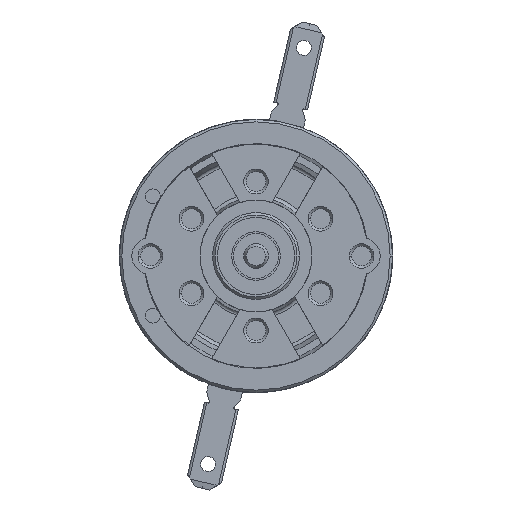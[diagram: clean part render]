
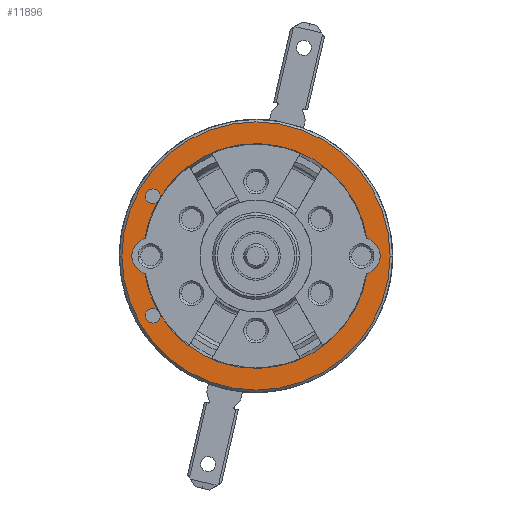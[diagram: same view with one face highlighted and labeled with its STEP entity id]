
A CAD part, left-side view. The second image highlights one B-rep face of the part: STEP entity #11896.
In plain terms, the highlighted planar face has unit normal (-1, 0, 0).
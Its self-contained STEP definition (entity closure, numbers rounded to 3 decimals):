
#3508=CARTESIAN_POINT('',(-29.2,0.,0.));
#3509=DIRECTION('',(-1.,0.,0.));
#3510=DIRECTION('',(0.,1.,0.));
#3511=AXIS2_PLACEMENT_3D('',#3508,#3509,#3510);
#3516=CARTESIAN_POINT('',(-29.2,0.,0.));
#3517=DIRECTION('',(-1.,0.,0.));
#3518=DIRECTION('',(0.,-1.,0.));
#3519=AXIS2_PLACEMENT_3D('',#3516,#3517,#3518);
#3524=CARTESIAN_POINT('',(-29.2,8.31,-4.8));
#3525=DIRECTION('',(-1.,0.,0.));
#3526=DIRECTION('',(0.,1.,0.));
#3527=AXIS2_PLACEMENT_3D('',#3524,#3525,#3526);
#3532=CARTESIAN_POINT('',(-29.2,8.31,-4.8));
#3533=DIRECTION('',(-1.,0.,0.));
#3534=DIRECTION('',(0.,-1.,0.));
#3535=AXIS2_PLACEMENT_3D('',#3532,#3533,#3534);
#3540=CARTESIAN_POINT('',(-29.2,0.,0.));
#3541=DIRECTION('',(1.,0.,0.));
#3542=DIRECTION('',(0.,-0.987,-0.159));
#3543=AXIS2_PLACEMENT_3D('',#3540,#3541,#3542);
#3548=CARTESIAN_POINT('',(-29.2,-8.5,0.));
#3549=DIRECTION('',(-1.,0.,0.));
#3550=DIRECTION('',(0.,-0.29,-0.957));
#3551=AXIS2_PLACEMENT_3D('',#3548,#3549,#3550);
#3556=CARTESIAN_POINT('',(-29.2,0.,0.));
#3557=DIRECTION('',(1.,0.,0.));
#3558=DIRECTION('',(0.,0.852,0.523));
#3559=AXIS2_PLACEMENT_3D('',#3556,#3557,#3558);
#3564=CARTESIAN_POINT('',(-29.2,8.31,4.8));
#3565=DIRECTION('',(1.,0.,0.));
#3566=DIRECTION('',(0.,-1.,0.));
#3567=AXIS2_PLACEMENT_3D('',#3564,#3565,#3566);
#3572=CARTESIAN_POINT('',(-29.2,8.31,4.8));
#3573=DIRECTION('',(1.,0.,0.));
#3574=DIRECTION('',(0.,1.,0.));
#3575=AXIS2_PLACEMENT_3D('',#3572,#3573,#3574);
#3580=CARTESIAN_POINT('',(-29.2,8.31,4.8));
#3581=DIRECTION('',(1.,0.,0.));
#3582=DIRECTION('',(0.,-0.593,-0.805));
#3583=AXIS2_PLACEMENT_3D('',#3580,#3581,#3582);
#3588=CARTESIAN_POINT('',(-29.2,0.,0.));
#3589=DIRECTION('',(1.,0.,0.));
#3590=DIRECTION('',(0.,0.987,0.159));
#3591=AXIS2_PLACEMENT_3D('',#3588,#3589,#3590);
#3596=CARTESIAN_POINT('',(-29.2,8.5,0.));
#3597=DIRECTION('',(-1.,0.,0.));
#3598=DIRECTION('',(0.,0.29,0.957));
#3599=AXIS2_PLACEMENT_3D('',#3596,#3597,#3598);
#3604=CARTESIAN_POINT('',(-29.2,0.,0.));
#3605=DIRECTION('',(1.,0.,0.));
#3606=DIRECTION('',(0.,0.879,-0.477));
#3607=AXIS2_PLACEMENT_3D('',#3604,#3605,#3606);
#3612=CARTESIAN_POINT('',(-29.2,8.31,-4.8));
#3613=DIRECTION('',(-1.,0.,0.));
#3614=DIRECTION('',(0.,-0.593,0.805));
#3615=AXIS2_PLACEMENT_3D('',#3612,#3613,#3614);
#8353=CARTESIAN_POINT('',(-29.2,8.91,4.8));
#8354=CARTESIAN_POINT('',(-29.2,7.71,4.8));
#8355=VERTEX_POINT('',#8353);
#8356=VERTEX_POINT('',#8354);
#8357=CARTESIAN_POINT('',(-29.2,7.714,4.733));
#8358=VERTEX_POINT('',#8357);
#8363=CARTESIAN_POINT('',(-29.2,8.91,-4.8));
#8364=VERTEX_POINT('',#8363);
#8365=CARTESIAN_POINT('',(-29.2,7.71,-4.8));
#8366=VERTEX_POINT('',#8365);
#8367=CARTESIAN_POINT('',(-29.2,7.714,-4.733));
#8368=VERTEX_POINT('',#8367);
#8409=CARTESIAN_POINT('',(-29.2,7.954,4.317));
#8410=VERTEX_POINT('',#8409);
#8411=CARTESIAN_POINT('',(-29.2,7.954,-4.317));
#8412=VERTEX_POINT('',#8411);
#8413=CARTESIAN_POINT('',(-29.2,-8.935,-1.435));
#8414=CARTESIAN_POINT('',(-29.2,-8.935,1.435));
#8415=VERTEX_POINT('',#8413);
#8416=VERTEX_POINT('',#8414);
#8417=CARTESIAN_POINT('',(-29.2,8.935,1.435));
#8418=CARTESIAN_POINT('',(-29.2,8.935,-1.435));
#8419=VERTEX_POINT('',#8417);
#8420=VERTEX_POINT('',#8418);
#8459=CARTESIAN_POINT('',(-29.2,10.8,0.));
#8460=CARTESIAN_POINT('',(-29.2,-10.8,0.));
#8461=VERTEX_POINT('',#8459);
#8462=VERTEX_POINT('',#8460);
#11860=CARTESIAN_POINT('',(-29.2,0.,0.));
#11861=DIRECTION('',(-1.,0.,0.));
#11862=DIRECTION('',(0.,1.,0.));
#11863=AXIS2_PLACEMENT_3D('',#11860,#11861,#11862);
#11864=PLANE('',#11863);
#11866=ORIENTED_EDGE('',*,*,#11865,.F.);
#11867=ORIENTED_EDGE('',*,*,#11843,.F.);
#11868=EDGE_LOOP('',(#11866,#11867));
#11869=FACE_OUTER_BOUND('',#11868,.F.);
#11871=ORIENTED_EDGE('',*,*,#11870,.T.);
#11873=ORIENTED_EDGE('',*,*,#11872,.T.);
#11875=ORIENTED_EDGE('',*,*,#11874,.F.);
#11877=ORIENTED_EDGE('',*,*,#11876,.T.);
#11879=ORIENTED_EDGE('',*,*,#11878,.F.);
#11881=ORIENTED_EDGE('',*,*,#11880,.F.);
#11883=ORIENTED_EDGE('',*,*,#11882,.F.);
#11885=ORIENTED_EDGE('',*,*,#11884,.F.);
#11887=ORIENTED_EDGE('',*,*,#11886,.F.);
#11889=ORIENTED_EDGE('',*,*,#11888,.T.);
#11891=ORIENTED_EDGE('',*,*,#11890,.F.);
#11893=ORIENTED_EDGE('',*,*,#11892,.T.);
#11894=EDGE_LOOP('',(#11871,#11873,#11875,#11877,#11879,#11881,#11883,#11885,
#11887,#11889,#11891,#11893));
#11895=FACE_BOUND('',#11894,.F.);
#11896=ADVANCED_FACE('',(#11869,#11895),#11864,.T.);
#3512=CIRCLE('',#3511,10.8);
#3520=CIRCLE('',#3519,10.8);
#3528=CIRCLE('',#3527,0.6);
#3536=CIRCLE('',#3535,0.6);
#3544=CIRCLE('',#3543,9.05);
#3552=CIRCLE('',#3551,1.5);
#3560=CIRCLE('',#3559,9.05);
#3568=CIRCLE('',#3567,0.6);
#3576=CIRCLE('',#3575,0.6);
#3584=CIRCLE('',#3583,0.6);
#3592=CIRCLE('',#3591,9.05);
#3600=CIRCLE('',#3599,1.5);
#3608=CIRCLE('',#3607,9.05);
#3616=CIRCLE('',#3615,0.6);
#11843=EDGE_CURVE('',#8462,#8461,#3520,.T.);
#11865=EDGE_CURVE('',#8461,#8462,#3512,.T.);
#11870=EDGE_CURVE('',#8364,#8366,#3528,.T.);
#11872=EDGE_CURVE('',#8366,#8368,#3536,.T.);
#11874=EDGE_CURVE('',#8415,#8368,#3544,.T.);
#11876=EDGE_CURVE('',#8415,#8416,#3552,.T.);
#11878=EDGE_CURVE('',#8358,#8416,#3560,.T.);
#11880=EDGE_CURVE('',#8356,#8358,#3568,.T.);
#11882=EDGE_CURVE('',#8355,#8356,#3576,.T.);
#11884=EDGE_CURVE('',#8410,#8355,#3584,.T.);
#11886=EDGE_CURVE('',#8419,#8410,#3592,.T.);
#11888=EDGE_CURVE('',#8419,#8420,#3600,.T.);
#11890=EDGE_CURVE('',#8412,#8420,#3608,.T.);
#11892=EDGE_CURVE('',#8412,#8364,#3616,.T.);
